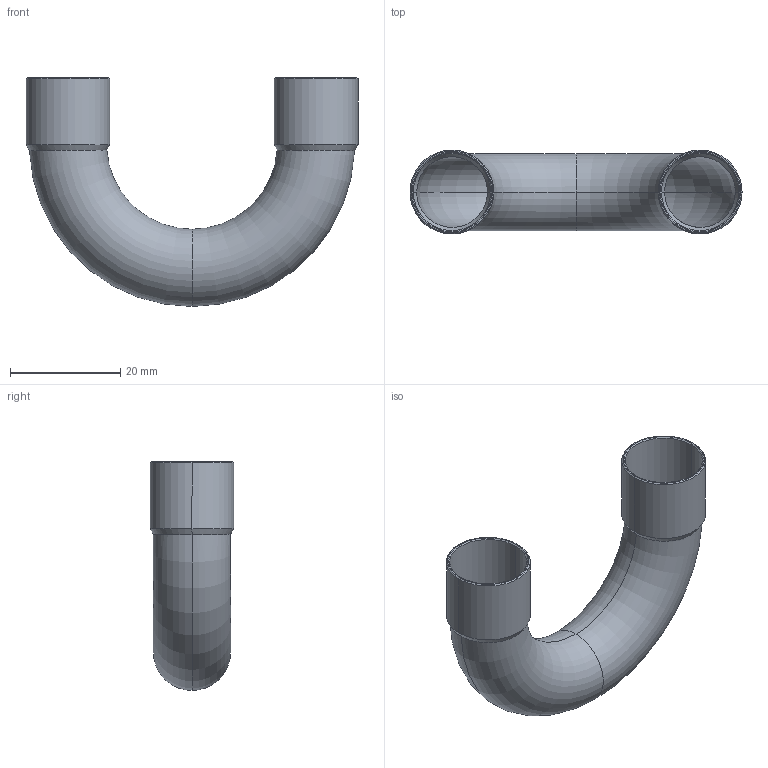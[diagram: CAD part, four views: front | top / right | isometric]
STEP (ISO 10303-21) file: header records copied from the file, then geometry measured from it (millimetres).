
FILE_DESCRIPTION((''),'2;1');
FILE_NAME('C:\sanha_work\5130\f\1506014.stp','2005-10-21T17:22:35',('Kris'),(''),'Autodesk Inventor 8','Autodesk Inventor 8','');
FILE_SCHEMA(('AUTOMOTIVE_DESIGN { 1 0 10303 214 1 1 1 1 }'));
Length unit declared in the file: millimetre
Products named in the file (1): 1506014
Bounding box: 60.2 x 15.2 x 41.5 mm (x, y, z)
Volume: 2453.3 mm3; surface area: 8223.5 mm2
Topology: 1 solids, 1 shells, 34 faces, 68 edges, 36 vertices
Faces by surface type: cone 12, bspline 9, torus 8, cylinder 4, plane 1
Entity records: 1131 total; most frequent: CARTESIAN_POINT 430, DIRECTION 148, ORIENTED_EDGE 136, EDGE_CURVE 68, AXIS2_PLACEMENT_3D 62, VERTEX_POINT 36, CIRCLE 36, EDGE_LOOP 36
